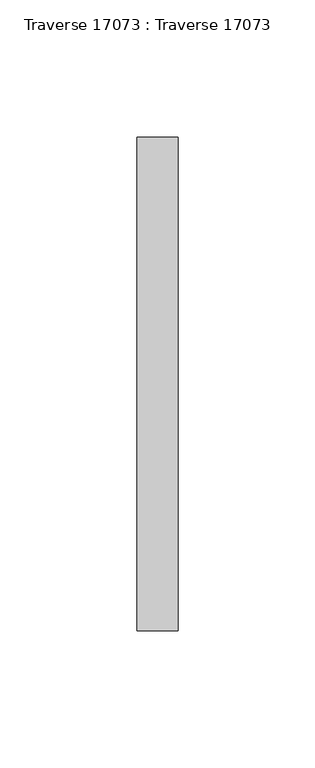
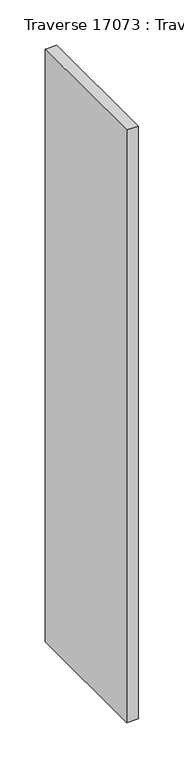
"""IFC4 building model written with IfcOpenShell, lengths in millimetres: beam geometry, Traverse 17073 : Traverse 17073."""

from ifc_helpers import new_model, si_unit, frame, origin, place, context, project, spatial, polyline, outline, extrude, source, transform, mapped, element, save


def traverse_17073_traverse_17073_4efb1bc2(model_context):
    return source(origin(), model_context, "Body", "SweptSolid", [
        extrude(outline(polyline([(0.0, -180.0), (0.0, 0.0), (15.0, 0.0), (15.0, -180.0), (0.0, -180.0)])), frame((195.3390307, -4390.0, 7226.5896904), z_axis=(-3.9221443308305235e-05, 0.0, 0.9999999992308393), x_axis=(-0.9999999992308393, 0.0, -3.9221443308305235e-05)), (0.0, 0.0, 1.0), 800.2870242),
    ])


if __name__ == "__main__":
    model = new_model("IFC4")
    model_context = context("Model", 3, world=origin())
    ifc_project = project(units=[si_unit("LENGTHUNIT", "METRE", prefix="MILLI")], contexts=[model_context])
    site = spatial("IfcSite", under=ifc_project)
    building = spatial("IfcBuilding", under=site)
    placement = place(None, origin())
    traverse_17073_traverse_17073_shape = traverse_17073_traverse_17073_4efb1bc2(model_context)
    element("IfcBeam", 1, ObjectType="Traverse 17073 : Traverse 17073", at=placement, inside=building, context=model_context, shape_type="MappedRepresentation", body=[
        mapped(traverse_17073_traverse_17073_shape, transform((0.0, 0.0, 0.0), x_axis=(1.0, 0.0, 0.0), y_axis=(0.0, 1.0, 0.0), z_axis=(0.0, 0.0, 1.0))),
    ])
    save(model, "model.ifc")
